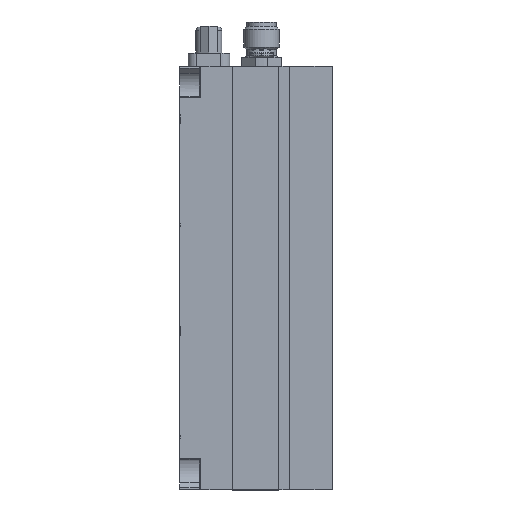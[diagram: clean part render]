
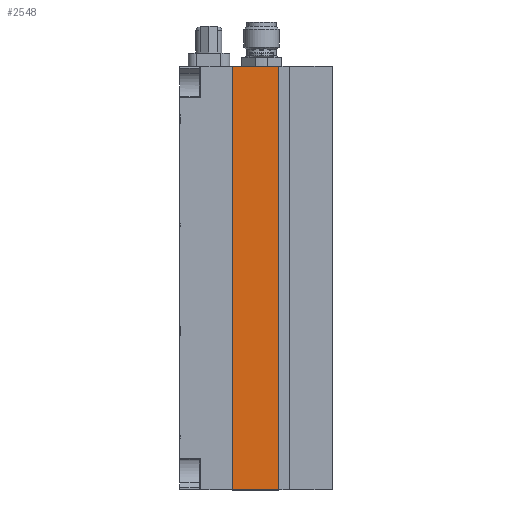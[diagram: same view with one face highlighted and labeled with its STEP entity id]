
A CAD part, left-side view. The second image highlights one B-rep face of the part: STEP entity #2548.
In plain terms, the highlighted planar face has unit normal (-1, 0, 0).
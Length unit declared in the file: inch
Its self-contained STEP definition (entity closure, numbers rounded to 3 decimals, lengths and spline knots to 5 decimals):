
#503 = ORIENTED_EDGE ( 'NONE', *, *, #7503, .T. ) ;
#1895 = VECTOR ( 'NONE', #8719, 39.37008 ) ;
#2442 = AXIS2_PLACEMENT_3D ( 'NONE', #4076, #6256, #21331 ) ;
#2548 = ADVANCED_FACE ( 'NONE', ( #10273 ), #19175, .F. ) ;
#2716 = CARTESIAN_POINT ( 'NONE',  ( -1., 0.7066, -1.5 ) ) ;
#4076 = CARTESIAN_POINT ( 'NONE',  ( -1., 0.7066, -1.5 ) ) ;
#4487 = CARTESIAN_POINT ( 'NONE',  ( -1., 0.3796, -1.5 ) ) ;
#5505 = DIRECTION ( 'NONE',  ( 0., -1., 0. ) ) ;
#6256 = DIRECTION ( 'NONE',  ( 1., 0., 0. ) ) ;
#6765 = DIRECTION ( 'NONE',  ( 0., 0., 1. ) ) ;
#7463 = LINE ( 'NONE', #18441, #12543 ) ;
#7503 = EDGE_CURVE ( 'NONE', #14628, #27420, #18543, .T. ) ;
#7599 = LINE ( 'NONE', #21624, #1895 ) ;
#7855 = ORIENTED_EDGE ( 'NONE', *, *, #21396, .T. ) ;
#8719 = DIRECTION ( 'NONE',  ( 0., -1., 0. ) ) ;
#10273 = FACE_OUTER_BOUND ( 'NONE', #24533, .T. ) ;
#11880 = CARTESIAN_POINT ( 'NONE',  ( -1., 0.7066, -1.5 ) ) ;
#12018 = VERTEX_POINT ( 'NONE', #2716 ) ;
#12543 = VECTOR ( 'NONE', #5505, 39.37008 ) ;
#12818 = VECTOR ( 'NONE', #6765, 39.37008 ) ;
#14025 = DIRECTION ( 'NONE',  ( 0., 0., 1. ) ) ;
#14628 = VERTEX_POINT ( 'NONE', #15284 ) ;
#15284 = CARTESIAN_POINT ( 'NONE',  ( -1., 0.3796, -1.5 ) ) ;
#16499 = LINE ( 'NONE', #11880, #21579 ) ;
#16832 = VERTEX_POINT ( 'NONE', #17729 ) ;
#17729 = CARTESIAN_POINT ( 'NONE',  ( -1., 0.7066, 1.5 ) ) ;
#18441 = CARTESIAN_POINT ( 'NONE',  ( -1., 0.7066, -1.5 ) ) ;
#18543 = LINE ( 'NONE', #4487, #12818 ) ;
#19175 = PLANE ( 'NONE',  #2442 ) ;
#20561 = CARTESIAN_POINT ( 'NONE',  ( -1., 0.3796, 1.5 ) ) ;
#21144 = ORIENTED_EDGE ( 'NONE', *, *, #23718, .F. ) ;
#21331 = DIRECTION ( 'NONE',  ( 0., 0., -1. ) ) ;
#21396 = EDGE_CURVE ( 'NONE', #12018, #14628, #7463, .T. ) ;
#21579 = VECTOR ( 'NONE', #14025, 39.37008 ) ;
#21624 = CARTESIAN_POINT ( 'NONE',  ( -1., 0.7066, 1.5 ) ) ;
#23718 = EDGE_CURVE ( 'NONE', #12018, #16832, #16499, .T. ) ;
#24533 = EDGE_LOOP ( 'NONE', ( #503, #25158, #21144, #7855 ) ) ;
#25158 = ORIENTED_EDGE ( 'NONE', *, *, #26365, .F. ) ;
#26365 = EDGE_CURVE ( 'NONE', #16832, #27420, #7599, .T. ) ;
#27420 = VERTEX_POINT ( 'NONE', #20561 ) ;
